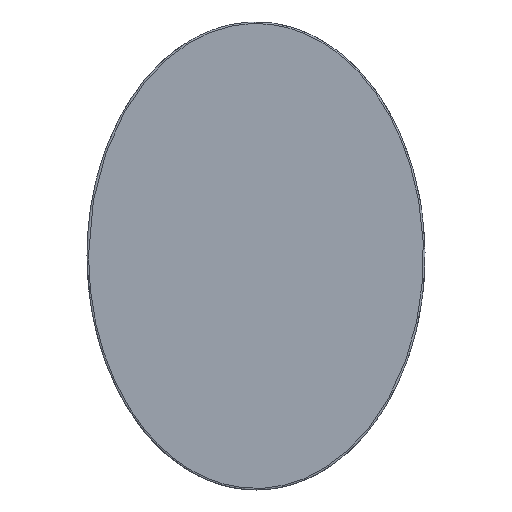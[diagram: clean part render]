
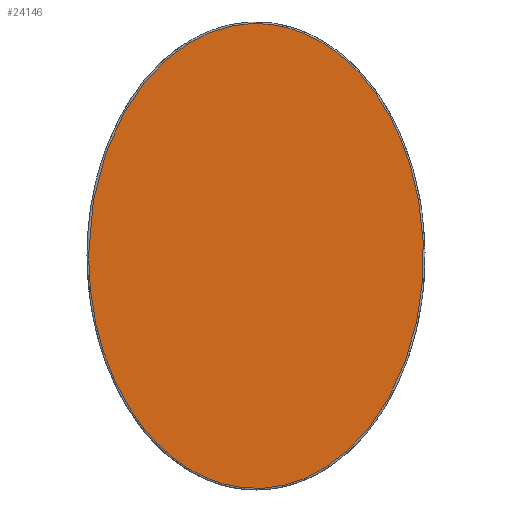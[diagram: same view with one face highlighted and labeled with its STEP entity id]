
A CAD part, front view. The second image highlights one B-rep face of the part: STEP entity #24146.
In plain terms, the highlighted planar face has unit normal (0, -1, 0).
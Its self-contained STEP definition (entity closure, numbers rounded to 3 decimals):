
#3429=B_SPLINE_CURVE_WITH_KNOTS('',3,(#32169,#32170,#32171,#32172,#32173,
#32174,#32175,#32176,#32177,#32178,#32179,#32180,#32181,#32182,#32183,#32184,
#32185,#32186,#32187,#32188,#32189,#32190,#32191,#32192,#32193,#32194,#32195,
#32196,#32197,#32198,#32199,#32200,#32201,#32202,#32203,#32204,#32205,#32206,
#32207,#32208,#32209,#32210,#32211,#32212,#32213,#32214,#32215,#32216,#32217),
 .UNSPECIFIED.,.T.,.F.,(4,1,1,1,1,1,1,1,1,1,1,1,1,1,1,1,1,1,1,1,1,1,1,1,
1,1,1,1,1,1,1,1,1,1,1,1,1,1,1,1,1,1,1,1,1,1,4),(-7.854,-7.63,
-7.405,-7.293,-7.181,-7.069,
-6.956,-6.857,-6.757,-6.657,
-6.557,-6.458,-6.358,-6.283,
-6.208,-6.134,-6.059,-5.909,
-5.76,-5.61,-5.46,-5.361,
-5.161,-4.862,-4.563,-4.413,
-4.264,-4.114,-3.964,-3.815,
-3.665,-3.615,-3.466,-3.366,
-3.266,-3.167,-3.067,-2.992,
-2.917,-2.768,-2.618,-2.468,
-2.356,-2.244,-2.02,-1.795,
-1.571),.UNSPECIFIED.);
#5338=PLANE('',#25730);
#6057=FACE_OUTER_BOUND('',#7256,.T.);
#7256=EDGE_LOOP('',(#17966));
#12832=VERTEX_POINT('',#32167);
#14870=EDGE_CURVE('',#12832,#12832,#3429,.T.);
#17966=ORIENTED_EDGE('',*,*,#14870,.F.);
#24146=ADVANCED_FACE('',(#6057),#5338,.F.);
#25730=AXIS2_PLACEMENT_3D('',#32218,#26910,#26911);
#26910=DIRECTION('center_axis',(0.,1.,0.));
#26911=DIRECTION('ref_axis',(0.,0.,1.));
#32167=CARTESIAN_POINT('',(-644.,0.,0.));
#32169=CARTESIAN_POINT('Ctrl Pts',(-644.,0.,0.));
#32170=CARTESIAN_POINT('Ctrl Pts',(-644.,0.,57.899));
#32171=CARTESIAN_POINT('Ctrl Pts',(-635.912,0.,
173.688));
#32172=CARTESIAN_POINT('Ctrl Pts',(-605.248,0.,
315.545));
#32173=CARTESIAN_POINT('Ctrl Pts',(-567.737,0.,
425.207));
#32174=CARTESIAN_POINT('Ctrl Pts',(-532.873,0.,
504.836));
#32175=CARTESIAN_POINT('Ctrl Pts',(-491.02,0.,
581.037));
#32176=CARTESIAN_POINT('Ctrl Pts',(-443.715,0.,
650.134));
#32177=CARTESIAN_POINT('Ctrl Pts',(-391.66,0.,
711.559));
#32178=CARTESIAN_POINT('Ctrl Pts',(-335.66,0.,
764.876));
#32179=CARTESIAN_POINT('Ctrl Pts',(-273.706,0.,
811.202));
#32180=CARTESIAN_POINT('Ctrl Pts',(-206.172,0.,
848.976));
#32181=CARTESIAN_POINT('Ctrl Pts',(-133.838,0.,
876.581));
#32182=CARTESIAN_POINT('Ctrl Pts',(-64.338,0.,
891.18));
#32183=CARTESIAN_POINT('Ctrl Pts',(-0.006,0.,
895.209));
#32184=CARTESIAN_POINT('Ctrl Pts',(57.894,0.,
891.583));
#32185=CARTESIAN_POINT('Ctrl Pts',(114.903,0.,
880.833));
#32186=CARTESIAN_POINT('Ctrl Pts',(188.659,0.,
857.533));
#32187=CARTESIAN_POINT('Ctrl Pts',(274.881,0.,
812.986));
#32188=CARTESIAN_POINT('Ctrl Pts',(365.665,0.,
740.312));
#32189=CARTESIAN_POINT('Ctrl Pts',(442.862,0.,
653.541));
#32190=CARTESIAN_POINT('Ctrl Pts',(499.598,0.,
567.383));
#32191=CARTESIAN_POINT('Ctrl Pts',(552.791,0.,
464.418));
#32192=CARTESIAN_POINT('Ctrl Pts',(607.272,0.,
319.493));
#32193=CARTESIAN_POINT('Ctrl Pts',(645.807,0.,
116.289));
#32194=CARTESIAN_POINT('Ctrl Pts',(645.815,0.,
-77.52));
#32195=CARTESIAN_POINT('Ctrl Pts',(624.127,0.,
-230.56));
#32196=CARTESIAN_POINT('Ctrl Pts',(596.709,0.,
-343.22));
#32197=CARTESIAN_POINT('Ctrl Pts',(557.761,0.,
-452.438));
#32198=CARTESIAN_POINT('Ctrl Pts',(506.699,0.,
-556.589));
#32199=CARTESIAN_POINT('Ctrl Pts',(442.881,0.,
-653.52));
#32200=CARTESIAN_POINT('Ctrl Pts',(382.823,0.,
-721.025));
#32201=CARTESIAN_POINT('Ctrl Pts',(315.758,0.,
-781.191));
#32202=CARTESIAN_POINT('Ctrl Pts',(252.303,0.,
-825.763));
#32203=CARTESIAN_POINT('Ctrl Pts',(170.53,0.,
-864.154));
#32204=CARTESIAN_POINT('Ctrl Pts',(96.26,0.,
-886.082));
#32205=CARTESIAN_POINT('Ctrl Pts',(19.403,0.,
-895.748));
#32206=CARTESIAN_POINT('Ctrl Pts',(-51.563,0.,
-892.782));
#32207=CARTESIAN_POINT('Ctrl Pts',(-114.9,0.,
-880.833));
#32208=CARTESIAN_POINT('Ctrl Pts',(-188.645,0.,
-857.539));
#32209=CARTESIAN_POINT('Ctrl Pts',(-274.887,0.,
-812.983));
#32210=CARTESIAN_POINT('Ctrl Pts',(-365.655,0.,
-740.319));
#32211=CARTESIAN_POINT('Ctrl Pts',(-436.427,0.,
-660.777));
#32212=CARTESIAN_POINT('Ctrl Pts',(-491.012,0.,
-581.054));
#32213=CARTESIAN_POINT('Ctrl Pts',(-546.818,0.,
-479.435));
#32214=CARTESIAN_POINT('Ctrl Pts',(-599.105,0.,
-343.928));
#32215=CARTESIAN_POINT('Ctrl Pts',(-635.913,0.,
-173.699));
#32216=CARTESIAN_POINT('Ctrl Pts',(-644.,0.,-57.899));
#32217=CARTESIAN_POINT('Ctrl Pts',(-644.,0.,0.));
#32218=CARTESIAN_POINT('Origin',(0.,0.,0.));
